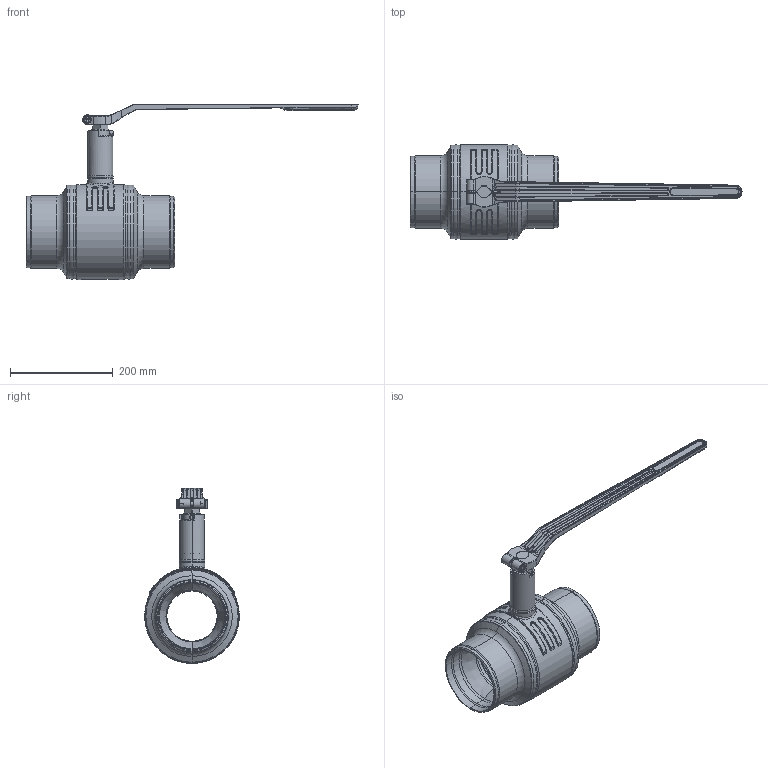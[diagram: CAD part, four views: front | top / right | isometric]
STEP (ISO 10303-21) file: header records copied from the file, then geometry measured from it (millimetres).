
FILE_DESCRIPTION((''),'2;1');
FILE_NAME('KHMO-S-R-H-125R100P04_SW0001','2022-10-18T15:46:59',('jeitlers'),('KLINGER'),'CREO PARAMETRIC BY PTC INC, 2020184','CREO PARAMETRIC BY PTC INC, 2020184','');
FILE_SCHEMA(('AUTOMOTIVE_DESIGN { 1 0 10303 214 1 1 1 1 }'));
Length unit declared in the file: millimetre
Products named in the file (1): KHMO-S-R-H-125R100P04_SW0001
Bounding box: 647.8 x 185 x 341.5 mm (x, y, z)
Volume: 2500760.7 mm3; surface area: 626899.3 mm2
Topology: 2 solids, 2 shells, 951 faces, 2283 edges, 1334 vertices
Faces by surface type: cylinder 320, torus 186, plane 169, bspline 163, cone 94, sphere 10, extrusion 8, revolution 1
Entity records: 56655 total; most frequent: CARTESIAN_POINT 34311, ORIENTED_EDGE 4532, DIRECTION 4443, EDGE_CURVE 2266, AXIS2_PLACEMENT_3D 1847, VERTEX_POINT 1334, CIRCLE 1050, EDGE_LOOP 992
